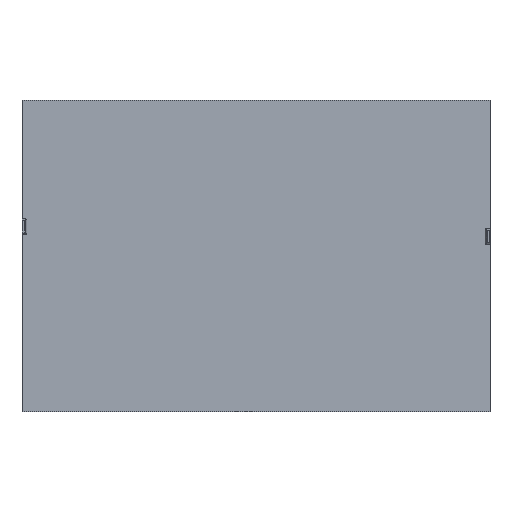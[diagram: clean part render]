
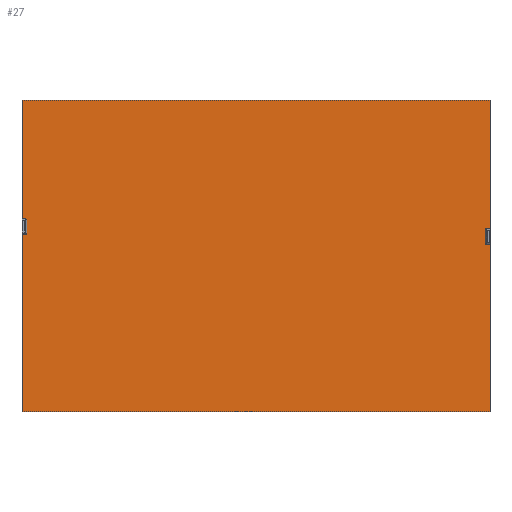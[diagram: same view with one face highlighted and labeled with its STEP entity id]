
A CAD part, front view. The second image highlights one B-rep face of the part: STEP entity #27.
In plain terms, the highlighted planar face has unit normal (0, -1, 0).
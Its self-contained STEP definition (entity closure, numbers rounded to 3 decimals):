
#27 = ADVANCED_FACE ( 'NONE', ( #505 ), #2258, .F. ) ;
#109 = DIRECTION ( 'NONE',  ( 0., 0., 1. ) ) ;
#125 = LINE ( 'NONE', #864, #3087 ) ;
#127 = CARTESIAN_POINT ( 'NONE',  ( 295.5, 0., 15. ) ) ;
#204 = VERTEX_POINT ( 'NONE', #2497 ) ;
#254 = LINE ( 'NONE', #3181, #3311 ) ;
#284 = VECTOR ( 'NONE', #3811, 1000. ) ;
#311 = EDGE_CURVE ( 'NONE', #5514, #2018, #5603, .T. ) ;
#335 = ORIENTED_EDGE ( 'NONE', *, *, #423, .F. ) ;
#360 = CARTESIAN_POINT ( 'NONE',  ( 294., 0., 33.5 ) ) ;
#407 = CARTESIAN_POINT ( 'NONE',  ( -299.875, 0., 27.5 ) ) ;
#423 = EDGE_CURVE ( 'NONE', #5007, #3926, #5072, .T. ) ;
#448 = LINE ( 'NONE', #5583, #4632 ) ;
#505 = FACE_OUTER_BOUND ( 'NONE', #2175, .T. ) ;
#580 = DIRECTION ( 'NONE',  ( 0., 0., -1. ) ) ;
#700 = ORIENTED_EDGE ( 'NONE', *, *, #4960, .F. ) ;
#704 = LINE ( 'NONE', #3426, #284 ) ;
#797 = EDGE_CURVE ( 'NONE', #3926, #5348, #1961, .T. ) ;
#833 = EDGE_CURVE ( 'NONE', #1546, #5514, #3197, .T. ) ;
#862 = ORIENTED_EDGE ( 'NONE', *, *, #4291, .F. ) ;
#864 = CARTESIAN_POINT ( 'NONE',  ( 294., 0., 0. ) ) ;
#870 = ORIENTED_EDGE ( 'NONE', *, *, #1380, .F. ) ;
#889 = ORIENTED_EDGE ( 'NONE', *, *, #2521, .F. ) ;
#930 = ORIENTED_EDGE ( 'NONE', *, *, #4837, .F. ) ;
#968 = AXIS2_PLACEMENT_3D ( 'NONE', #3491, #3484, #3479 ) ;
#1026 = VECTOR ( 'NONE', #3506, 1000. ) ;
#1077 = VERTEX_POINT ( 'NONE', #360 ) ;
#1092 = AXIS2_PLACEMENT_3D ( 'NONE', #4065, #4055, #4054 ) ;
#1098 = CARTESIAN_POINT ( 'NONE',  ( 0., 0., 27.5 ) ) ;
#1160 = DIRECTION ( 'NONE',  ( 1., 0., 0. ) ) ;
#1189 = CARTESIAN_POINT ( 'NONE',  ( -294., 0., 46. ) ) ;
#1225 = ORIENTED_EDGE ( 'NONE', *, *, #1811, .F. ) ;
#1233 = CARTESIAN_POINT ( 'NONE',  ( 299.875, 0., 15. ) ) ;
#1301 = AXIS2_PLACEMENT_3D ( 'NONE', #4984, #4971, #4970 ) ;
#1380 = EDGE_CURVE ( 'NONE', #4930, #3636, #3182, .T. ) ;
#1382 = CARTESIAN_POINT ( 'NONE',  ( -295.5, 0., 29. ) ) ;
#1495 = CARTESIAN_POINT ( 'NONE',  ( -295.5, 0., 47.5 ) ) ;
#1544 = CARTESIAN_POINT ( 'NONE',  ( 299.875, 0., 199.875 ) ) ;
#1546 = VERTEX_POINT ( 'NONE', #127 ) ;
#1632 = VERTEX_POINT ( 'NONE', #5034 ) ;
#1733 = DIRECTION ( 'NONE',  ( -1., 0., 0. ) ) ;
#1743 = CARTESIAN_POINT ( 'NONE',  ( 0., 0., 15. ) ) ;
#1745 = CARTESIAN_POINT ( 'NONE',  ( 299.875, 0., 199.875 ) ) ;
#1784 = DIRECTION ( 'NONE',  ( 1., 0., 0. ) ) ;
#1811 = EDGE_CURVE ( 'NONE', #3293, #1632, #2336, .T. ) ;
#1883 = DIRECTION ( 'NONE',  ( -1., 0., 0. ) ) ;
#1922 = CARTESIAN_POINT ( 'NONE',  ( 299.875, 0., -199.875 ) ) ;
#1961 = LINE ( 'NONE', #1745, #5237 ) ;
#2013 = LINE ( 'NONE', #1098, #1026 ) ;
#2018 = VERTEX_POINT ( 'NONE', #5711 ) ;
#2091 = ORIENTED_EDGE ( 'NONE', *, *, #797, .F. ) ;
#2175 = EDGE_LOOP ( 'NONE', ( #3052, #4035, #4890, #2972, #4518, #700, #2334, #4282, #2091, #335, #889, #930, #862, #1225, #4126, #870 ) ) ;
#2186 = DIRECTION ( 'NONE',  ( 0., 0., 1. ) ) ;
#2238 = DIRECTION ( 'NONE',  ( 0., 1., 0. ) ) ;
#2258 = PLANE ( 'NONE',  #3612 ) ;
#2292 = CARTESIAN_POINT ( 'NONE',  ( 0., 0., 0. ) ) ;
#2334 = ORIENTED_EDGE ( 'NONE', *, *, #4005, .F. ) ;
#2336 = CIRCLE ( 'NONE', #3106, 1.5 ) ;
#2370 = VECTOR ( 'NONE', #109, 1000. ) ;
#2424 = EDGE_CURVE ( 'NONE', #5348, #4831, #448, .T. ) ;
#2497 = CARTESIAN_POINT ( 'NONE',  ( 295.5, 0., 35. ) ) ;
#2521 = EDGE_CURVE ( 'NONE', #3045, #5007, #3062, .T. ) ;
#2649 = EDGE_CURVE ( 'NONE', #1077, #4726, #125, .T. ) ;
#2732 = CIRCLE ( 'NONE', #1301, 1.5 ) ;
#2972 = ORIENTED_EDGE ( 'NONE', *, *, #4704, .F. ) ;
#2978 = VERTEX_POINT ( 'NONE', #1189 ) ;
#3045 = VERTEX_POINT ( 'NONE', #1495 ) ;
#3052 = ORIENTED_EDGE ( 'NONE', *, *, #5144, .F. ) ;
#3062 = LINE ( 'NONE', #4722, #5093 ) ;
#3087 = VECTOR ( 'NONE', #580, 1000. ) ;
#3106 = AXIS2_PLACEMENT_3D ( 'NONE', #1382, #4743, #5129 ) ;
#3181 = CARTESIAN_POINT ( 'NONE',  ( 0., 0., 35. ) ) ;
#3182 = LINE ( 'NONE', #5893, #2370 ) ;
#3197 = LINE ( 'NONE', #1743, #4468 ) ;
#3293 = VERTEX_POINT ( 'NONE', #3335 ) ;
#3305 = CIRCLE ( 'NONE', #1092, 1.5 ) ;
#3306 = CARTESIAN_POINT ( 'NONE',  ( -299.875, 0., 47.5 ) ) ;
#3311 = VECTOR ( 'NONE', #1733, 1000. ) ;
#3335 = CARTESIAN_POINT ( 'NONE',  ( -295.5, 0., 27.5 ) ) ;
#3426 = CARTESIAN_POINT ( 'NONE',  ( -294., 0., 0. ) ) ;
#3479 = DIRECTION ( 'NONE',  ( 0., 0., -1. ) ) ;
#3484 = DIRECTION ( 'NONE',  ( 0., -1., 0. ) ) ;
#3491 = CARTESIAN_POINT ( 'NONE',  ( 295.5, 0., 33.5 ) ) ;
#3506 = DIRECTION ( 'NONE',  ( 1., 0., 0. ) ) ;
#3545 = CARTESIAN_POINT ( 'NONE',  ( -299.875, 0., 199.875 ) ) ;
#3612 = AXIS2_PLACEMENT_3D ( 'NONE', #2292, #2238, #2186 ) ;
#3636 = VERTEX_POINT ( 'NONE', #407 ) ;
#3663 = CARTESIAN_POINT ( 'NONE',  ( -299.875, 0., -199.875 ) ) ;
#3802 = EDGE_CURVE ( 'NONE', #3636, #3293, #2013, .T. ) ;
#3811 = DIRECTION ( 'NONE',  ( 0., 0., 1. ) ) ;
#3831 = CIRCLE ( 'NONE', #968, 1.5 ) ;
#3926 = VERTEX_POINT ( 'NONE', #3545 ) ;
#4005 = EDGE_CURVE ( 'NONE', #4831, #204, #254, .T. ) ;
#4035 = ORIENTED_EDGE ( 'NONE', *, *, #311, .F. ) ;
#4054 = DIRECTION ( 'NONE',  ( 0., 0., -1. ) ) ;
#4055 = DIRECTION ( 'NONE',  ( 0., -1., 0. ) ) ;
#4065 = CARTESIAN_POINT ( 'NONE',  ( -295.5, 0., 46. ) ) ;
#4117 = CARTESIAN_POINT ( 'NONE',  ( 299.875, 0., 35. ) ) ;
#4126 = ORIENTED_EDGE ( 'NONE', *, *, #3802, .F. ) ;
#4282 = ORIENTED_EDGE ( 'NONE', *, *, #2424, .F. ) ;
#4291 = EDGE_CURVE ( 'NONE', #1632, #2978, #704, .T. ) ;
#4468 = VECTOR ( 'NONE', #1784, 1000. ) ;
#4503 = DIRECTION ( 'NONE',  ( 0., 0., -1. ) ) ;
#4518 = ORIENTED_EDGE ( 'NONE', *, *, #2649, .F. ) ;
#4543 = CARTESIAN_POINT ( 'NONE',  ( 299.875, 0., 199.875 ) ) ;
#4573 = DIRECTION ( 'NONE',  ( -1., 0., 0. ) ) ;
#4632 = VECTOR ( 'NONE', #4907, 1000. ) ;
#4704 = EDGE_CURVE ( 'NONE', #4726, #1546, #2732, .T. ) ;
#4722 = CARTESIAN_POINT ( 'NONE',  ( 0., 0., 47.5 ) ) ;
#4726 = VERTEX_POINT ( 'NONE', #4825 ) ;
#4743 = DIRECTION ( 'NONE',  ( 0., -1., 0. ) ) ;
#4825 = CARTESIAN_POINT ( 'NONE',  ( 294., 0., 16.5 ) ) ;
#4831 = VERTEX_POINT ( 'NONE', #4117 ) ;
#4837 = EDGE_CURVE ( 'NONE', #2978, #3045, #3305, .T. ) ;
#4890 = ORIENTED_EDGE ( 'NONE', *, *, #833, .F. ) ;
#4907 = DIRECTION ( 'NONE',  ( 0., 0., -1. ) ) ;
#4930 = VERTEX_POINT ( 'NONE', #3663 ) ;
#4939 = LINE ( 'NONE', #1922, #5045 ) ;
#4960 = EDGE_CURVE ( 'NONE', #204, #1077, #3831, .T. ) ;
#4970 = DIRECTION ( 'NONE',  ( 0., 0., 1. ) ) ;
#4971 = DIRECTION ( 'NONE',  ( 0., -1., 0. ) ) ;
#4984 = CARTESIAN_POINT ( 'NONE',  ( 295.5, 0., 16.5 ) ) ;
#5007 = VERTEX_POINT ( 'NONE', #3306 ) ;
#5034 = CARTESIAN_POINT ( 'NONE',  ( -294., 0., 29. ) ) ;
#5045 = VECTOR ( 'NONE', #1883, 1000. ) ;
#5072 = LINE ( 'NONE', #5866, #5611 ) ;
#5093 = VECTOR ( 'NONE', #4573, 1000. ) ;
#5129 = DIRECTION ( 'NONE',  ( 0., 0., 1. ) ) ;
#5144 = EDGE_CURVE ( 'NONE', #2018, #4930, #4939, .T. ) ;
#5237 = VECTOR ( 'NONE', #1160, 1000. ) ;
#5348 = VERTEX_POINT ( 'NONE', #1544 ) ;
#5514 = VERTEX_POINT ( 'NONE', #1233 ) ;
#5583 = CARTESIAN_POINT ( 'NONE',  ( 299.875, 0., 199.875 ) ) ;
#5603 = LINE ( 'NONE', #4543, #5790 ) ;
#5611 = VECTOR ( 'NONE', #5881, 1000. ) ;
#5711 = CARTESIAN_POINT ( 'NONE',  ( 299.875, 0., -199.875 ) ) ;
#5790 = VECTOR ( 'NONE', #4503, 1000. ) ;
#5866 = CARTESIAN_POINT ( 'NONE',  ( -299.875, 0., 199.875 ) ) ;
#5881 = DIRECTION ( 'NONE',  ( 0., 0., 1. ) ) ;
#5893 = CARTESIAN_POINT ( 'NONE',  ( -299.875, 0., 199.875 ) ) ;
